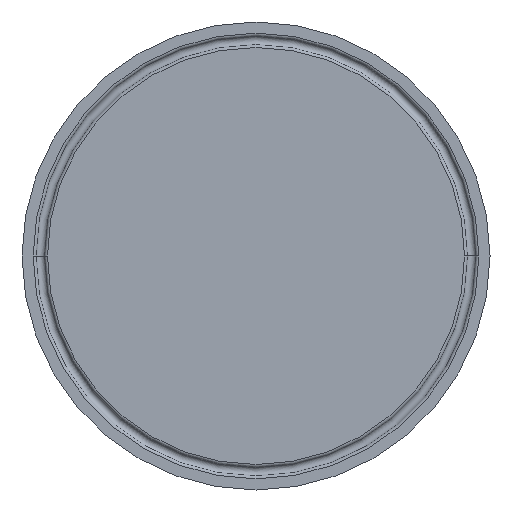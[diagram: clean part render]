
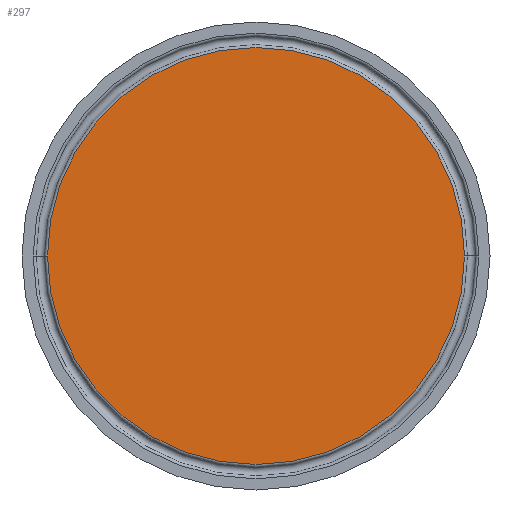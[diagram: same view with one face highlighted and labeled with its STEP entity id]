
A CAD part, front view. The second image highlights one B-rep face of the part: STEP entity #297.
In plain terms, the highlighted planar face has unit normal (0, -1, 0).
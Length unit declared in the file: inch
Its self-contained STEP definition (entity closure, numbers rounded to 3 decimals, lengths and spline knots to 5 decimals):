
#57 = CARTESIAN_POINT ( 'NONE',  ( 0., 0., 0. ) ) ;
#69 = EDGE_LOOP ( 'NONE', ( #332, #134 ) ) ;
#134 = ORIENTED_EDGE ( 'NONE', *, *, #226, .F. ) ;
#138 = AXIS2_PLACEMENT_3D ( 'NONE', #300, #142, #349 ) ;
#142 = DIRECTION ( 'NONE',  ( 0., 1., 0. ) ) ;
#161 = CARTESIAN_POINT ( 'NONE',  ( -2.08592, 0., 0. ) ) ;
#163 = DIRECTION ( 'NONE',  ( 0., 1., 0. ) ) ;
#216 = CARTESIAN_POINT ( 'NONE',  ( 0., 0., 0. ) ) ;
#222 = CIRCLE ( 'NONE', #414, 2.08592 ) ;
#226 = EDGE_CURVE ( 'NONE', #290, #370, #238, .T. ) ;
#238 = CIRCLE ( 'NONE', #138, 2.08592 ) ;
#241 = FACE_OUTER_BOUND ( 'NONE', #69, .T. ) ;
#284 = DIRECTION ( 'NONE',  ( 0., -1., 0. ) ) ;
#290 = VERTEX_POINT ( 'NONE', #397 ) ;
#297 = ADVANCED_FACE ( 'NONE', ( #241 ), #402, .T. ) ;
#300 = CARTESIAN_POINT ( 'NONE',  ( 0., 0., 0. ) ) ;
#332 = ORIENTED_EDGE ( 'NONE', *, *, #372, .F. ) ;
#340 = DIRECTION ( 'NONE',  ( -1., 0., 0. ) ) ;
#349 = DIRECTION ( 'NONE',  ( -1., 0., 0. ) ) ;
#364 = DIRECTION ( 'NONE',  ( 1., 0., 0. ) ) ;
#370 = VERTEX_POINT ( 'NONE', #161 ) ;
#372 = EDGE_CURVE ( 'NONE', #370, #290, #222, .T. ) ;
#386 = AXIS2_PLACEMENT_3D ( 'NONE', #216, #284, #364 ) ;
#397 = CARTESIAN_POINT ( 'NONE',  ( 2.08592, 0., 0. ) ) ;
#402 = PLANE ( 'NONE',  #386 ) ;
#414 = AXIS2_PLACEMENT_3D ( 'NONE', #57, #163, #340 ) ;
